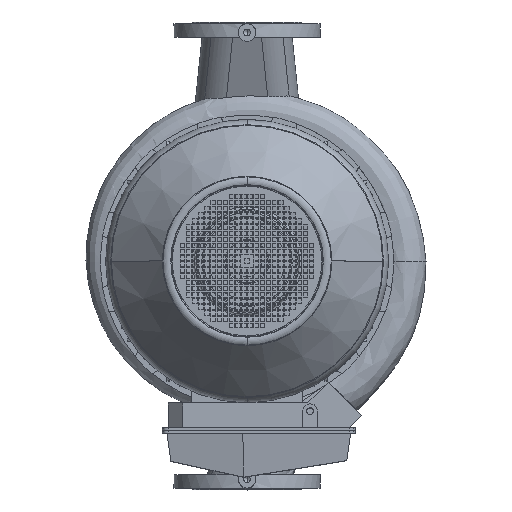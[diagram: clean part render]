
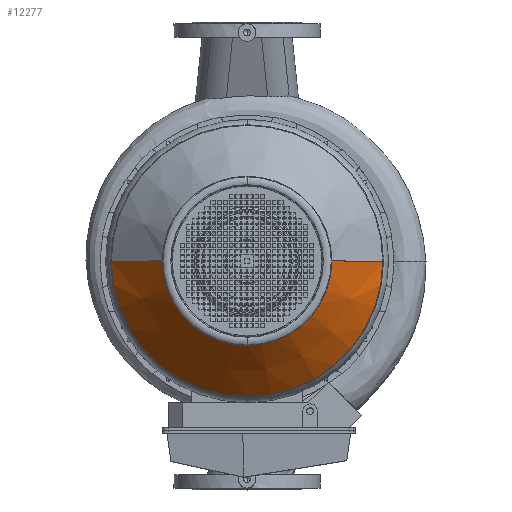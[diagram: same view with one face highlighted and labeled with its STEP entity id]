
A CAD part, top view. The second image highlights one B-rep face of the part: STEP entity #12277.
In plain terms, the highlighted conical face has half-angle 40.812 degrees and reference radius 189.117 mm.
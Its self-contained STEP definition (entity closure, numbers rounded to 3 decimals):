
#12277=ADVANCED_FACE('',(#31019),#31020,.T.);
#15437=EDGE_CURVE('',#36537,#36540,#36541,.T.);
#15439=EDGE_CURVE('',#36543,#36544,#36545,.T.);
#15441=EDGE_CURVE('',#36544,#36547,#36548,.T.);
#15443=EDGE_CURVE('',#36540,#36550,#36551,.T.);
#31019=FACE_OUTER_BOUND('',#61534,.T.);
#31020=CONICAL_SURFACE('',#61535,189.117,0.712);
#36537=VERTEX_POINT('',#67069);
#36540=VERTEX_POINT('',#67073);
#36541=CIRCLE('',#67074,145.0);
#36543=VERTEX_POINT('',#67077);
#36544=VERTEX_POINT('',#67078);
#36545=CIRCLE('',#67079,233.234);
#36547=VERTEX_POINT('',#67082);
#36548=CIRCLE('',#67083,233.234);
#36550=VERTEX_POINT('',#67086);
#36551=CIRCLE('',#67087,145.0);
#61534=EDGE_LOOP('',(#99871,#99872,#99873,#99874,#99875,#99876));
#61535=AXIS2_PLACEMENT_3D('',#99877,#99878,#99879);
#67069=CARTESIAN_POINT('',(215.74,145.0,0.0));
#67073=CARTESIAN_POINT('',(215.74,0.,145.0));
#67074=AXIS2_PLACEMENT_3D('',#115537,#115538,#115539);
#67077=CARTESIAN_POINT('',(113.565,233.234,0.0));
#67078=CARTESIAN_POINT('',(113.565,0.,233.234));
#67079=AXIS2_PLACEMENT_3D('',#115540,#115541,#115542);
#67082=CARTESIAN_POINT('',(113.565,-233.234,0.));
#67083=AXIS2_PLACEMENT_3D('',#115543,#115544,#115545);
#67086=CARTESIAN_POINT('',(215.74,-145.0,0.));
#67087=AXIS2_PLACEMENT_3D('',#115546,#115547,#115548);
#99871=ORIENTED_EDGE('',*,*,#125089,.F.);
#99872=ORIENTED_EDGE('',*,*,#15439,.T.);
#99873=ORIENTED_EDGE('',*,*,#15441,.T.);
#99874=ORIENTED_EDGE('',*,*,#125090,.F.);
#99875=ORIENTED_EDGE('',*,*,#15443,.F.);
#99876=ORIENTED_EDGE('',*,*,#15437,.F.);
#99877=CARTESIAN_POINT('',(164.652,0.0,0.0));
#99878=DIRECTION('',(-1.0,-0.0,-0.0));
#99879=DIRECTION('',(0.0,1.0,0.0));
#115537=CARTESIAN_POINT('',(215.74,0.0,0.0));
#115538=DIRECTION('',(1.0,0.0,0.0));
#115539=DIRECTION('',(0.0,1.0,0.0));
#115540=CARTESIAN_POINT('',(113.565,0.0,0.0));
#115541=DIRECTION('',(1.0,0.0,0.0));
#115542=DIRECTION('',(0.0,1.0,0.0));
#115543=CARTESIAN_POINT('',(113.565,0.0,0.0));
#115544=DIRECTION('',(1.0,0.0,0.0));
#115545=DIRECTION('',(0.0,1.0,0.0));
#115546=CARTESIAN_POINT('',(215.74,0.0,0.0));
#115547=DIRECTION('',(1.0,0.0,0.0));
#115548=DIRECTION('',(0.0,1.0,0.0));
#125089=EDGE_CURVE('',#36543,#36537,#129346,.T.);
#125090=EDGE_CURVE('',#36550,#36547,#129347,.T.);
#129346=LINE('',#135628,#135629);
#129347=LINE('',#135630,#135631);
#135628=CARTESIAN_POINT('',(164.652,189.117,0.));
#135629=VECTOR('',#142083,1.0);
#135630=CARTESIAN_POINT('',(164.652,-189.117,0.));
#135631=VECTOR('',#142084,1.0);
#142083=DIRECTION('',(0.757,-0.654,0.));
#142084=DIRECTION('',(-0.757,-0.654,0.));
